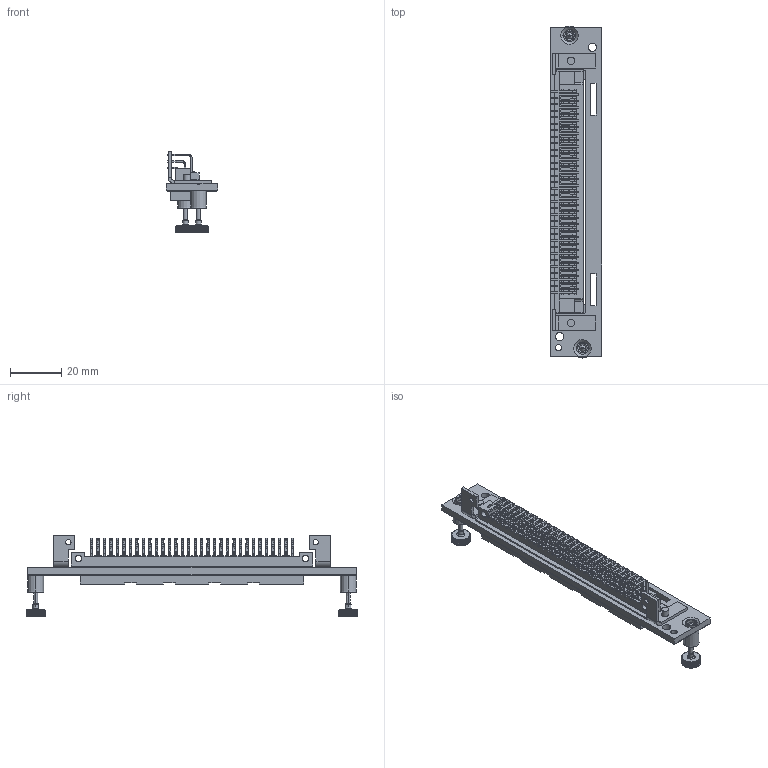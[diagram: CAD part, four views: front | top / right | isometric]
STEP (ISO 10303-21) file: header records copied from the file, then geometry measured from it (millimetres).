
FILE_DESCRIPTION((''),'2;1');
FILE_NAME('CU_PXIE-4300-FRTCONN','2010-11-22T',('dkendric'),(''),'PRO/ENGINEER BY PARAMETRIC TECHNOLOGY CORPORATION, 2006510','PRO/ENGINEER BY PARAMETRIC TECHNOLOGY CORPORATION, 2006510','');
FILE_SCHEMA(('CONFIG_CONTROL_DESIGN'));
Products named in the file (1): CU_PXIE-4300-FRTCONN
Bounding box: 20.02 x 130.05 x 32.12 mm (x, y, z)
Volume: 11250.4 mm3; surface area: 15688.7 mm2
Topology: 3 solids, 3 shells, 3264 faces, 9061 edges, 6009 vertices
Faces by surface type: plane 2810, cylinder 280, extrusion 130, bspline 36, cone 4, torus 4
Entity records: 111054 total; most frequent: CARTESIAN_POINT 28479, ORIENTED_EDGE 18114, DIRECTION 15141, EDGE_CURVE 9057, VECTOR 7841, LINE 7711, VERTEX_POINT 6009, AXIS2_PLACEMENT_3D 3650
